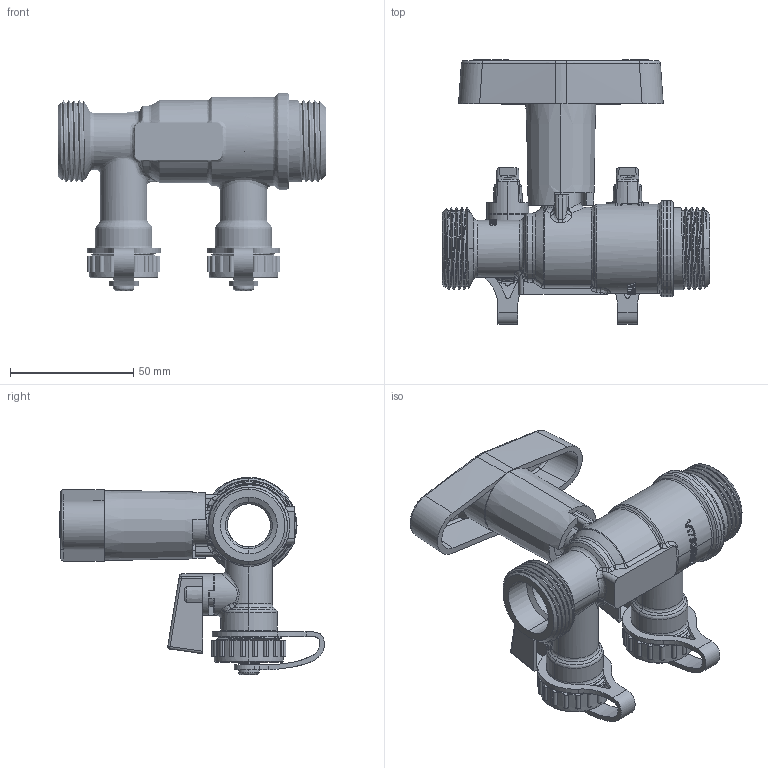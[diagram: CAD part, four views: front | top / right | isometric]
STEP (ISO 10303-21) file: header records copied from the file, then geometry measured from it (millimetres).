
FILE_DESCRIPTION (( 'STEP AP214' ), '1' );
FILE_NAME ('7778110.STEP', '2022-11-09T12:43:13', ( '' ), ( '' ), 'SwSTEP 2.0', 'SolidWorks 2022', '' );
FILE_SCHEMA (( 'AUTOMOTIVE_DESIGN' ));
Length unit declared in the file: millimetre
Products named in the file (25): 50905030_Nera; 52705001; 33208001; 31605661; 30505300; 74105054; 30505280; 31405280; 52905873; 33208101; 52110032; 52605489; 52110005; 52205088; 7778110; 30105682; 52905490; 50905090; 32225088; 24105054; 30525300; 30525280; 54305004_Piegata; 52705029; 94105054
Assembly tree (38 placements, depth 6):
  7778110
    74105054
      94105054
        24105054
          30105682
          52705001  x4
          33208001  x2
          30525280  x2
            30505280
            52905873
          31405280  x2
          30525300
            30505300
            52905873  x2
          52705029  x2
          31605661
          33208101
          52905490
        50905090  x2
        52110032  x2
        50905030_Nera
        52110005
      32225088  x2
        52205088
        52605489
      54305004_Piegata  x2
Bounding box: 108.25 x 107.29 x 80 mm (x, y, z)
Volume: 108437.7 mm3; surface area: 90430 mm2
Topology: 36 solids, 36 shells, 2091 faces, 5346 edges, 3371 vertices
Faces by surface type: cylinder 695, plane 563, bspline 517, cone 298, sphere 12, torus 6
Entity records: 85750 total; most frequent: CARTESIAN_POINT 48717, ORIENTED_EDGE 8378, DIRECTION 6609, EDGE_CURVE 4189, VERTEX_POINT 2652, AXIS2_PLACEMENT_3D 2559, EDGE_LOOP 1755, ADVANCED_FACE 1646
